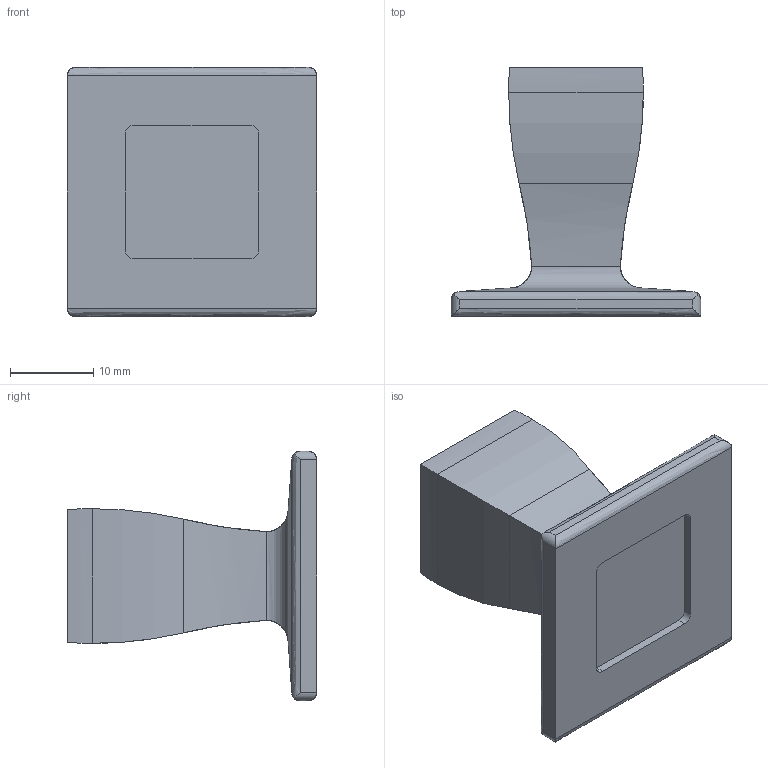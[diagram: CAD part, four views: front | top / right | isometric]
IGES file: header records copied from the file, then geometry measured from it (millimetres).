
Start section: Data from Parasolid IGES Translator 15.0.47, Copyright(c) 2006 Siemens P LM Software. All Rights Reserved.
Global section: file name: 115264.igs; native system:  By UGS Corp.; preprocessor: XPlus GENERIC/IGES 3.0; author: Noname; organization: Noname; date: 20140122.100903; units: millimetre
Bounding box: 30 x 30 x 30 mm (x, y, z)
Surface area: 3805.3 mm2 (no closed solid volume)
Topology: 0 solids, 0 shells, 45 faces, 204 edges, 204 vertices
Faces by surface type: revolution 29, extrusion 16
